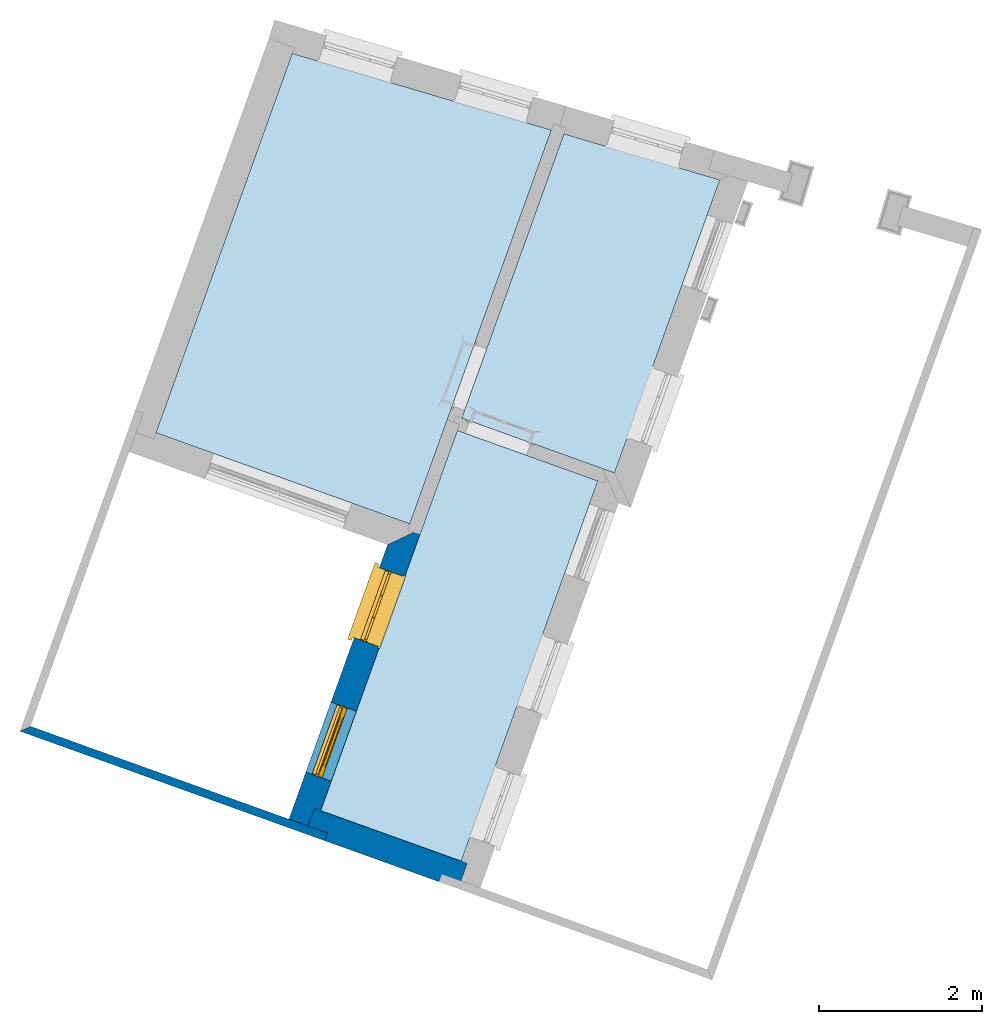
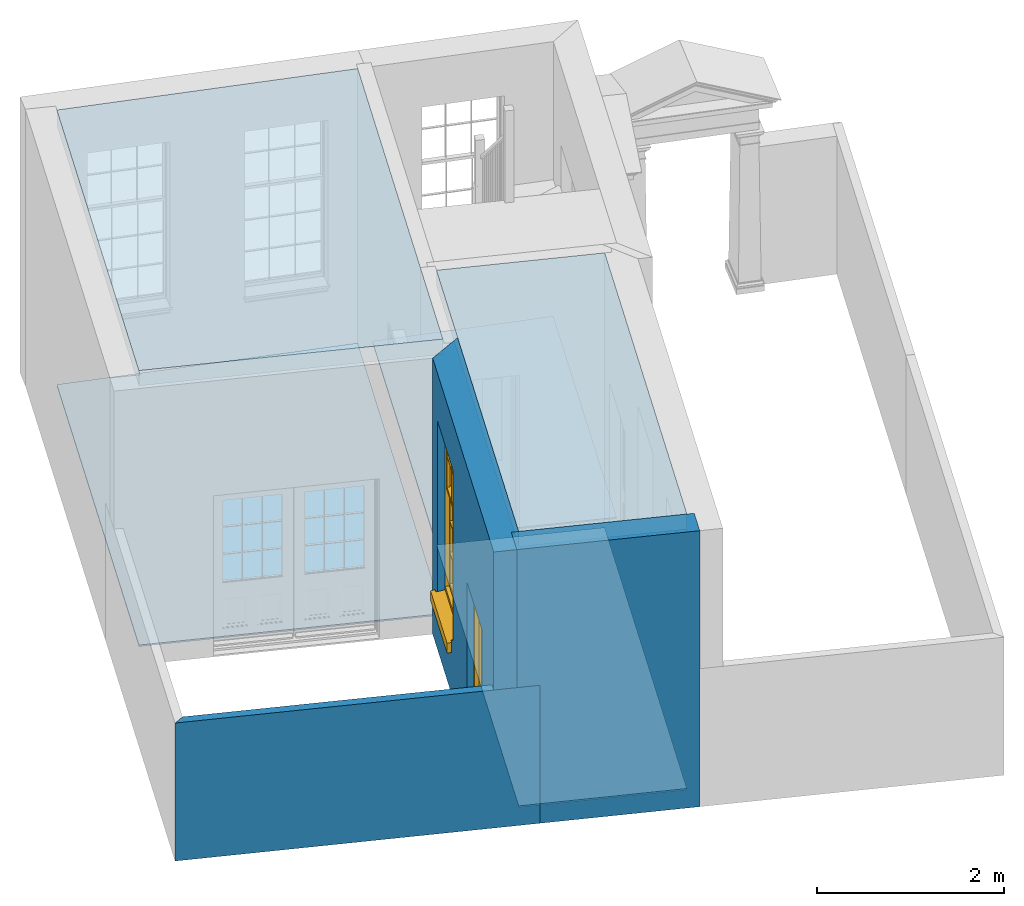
# One storey, part 1 of 7: 5 slabs, 3 walls, 1 door, 1 window, 2 openings.
"""IFC4 building model written with IfcOpenShell, lengths in metres."""

from ifc_helpers import new_model, si_unit, frame, origin, origin_with_axes, place, context, subcontext, project, spatial, polyline, outline, extrude, faceted_brep, source, transform, mapped, material, layer, layer_set, layer_usage, type_object, type_shapes, element, fill, save


model = new_model("IFC4")

# Units and contexts
model_context = context("Model", 3, world=origin_with_axes())
body_context = subcontext(model_context, "Body", "Model", "MODEL_VIEW")
ifc_project = project(units=[si_unit("PLANEANGLEUNIT", "RADIAN"), si_unit("MASSUNIT", "GRAM", prefix="KILO"), si_unit("FORCEUNIT", "NEWTON", prefix="KILO"), si_unit("LENGTHUNIT", "METRE"), si_unit("AREAUNIT", "SQUARE_METRE"), si_unit("VOLUMEUNIT", "CUBIC_METRE")], contexts=[model_context, model_context])

# Sites, building, storey
site_1_placement = place(None, origin_with_axes())
site_1 = spatial("IfcSite", under=ifc_project, at=site_1_placement, Name="Tamar")
site_2_placement = place(site_1_placement, origin_with_axes())
site_2 = spatial("IfcSite", under=site_1, at=site_2_placement, Name="Site plot-23", CompositionType="ELEMENT")
building_placement = place(None, origin_with_axes())
building = spatial("IfcBuilding", under=site_2, at=building_placement, Name="Building plot-23", CompositionType="ELEMENT")
storey_placement = place(None, frame((0.0, 0.0, 26.0), z_axis=(0.0, 0.0, 1.0), x_axis=(1.0, 0.0, 0.0)))
storey = spatial("IfcBuildingStorey", under=building, at=storey_placement, Name="plot-23 0", CompositionType="ELEMENT", Elevation=26.0)

# Slabs
slab_1_placement = place(storey_placement, frame((260.668706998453, 278.371056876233, 3.4)))
element("IfcSlab", 1, at=slab_1_placement, inside=storey, Name="My Slab", ObjectType="Slab", PredefinedType="FLOOR", context=body_context, shape_type="SweptSolid", body=[
    extrude(outline(polyline([(0.0, 0.0), (3.10608986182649, -1.11612193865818), (4.83756559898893, 3.70245481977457), (1.6674885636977, 4.64050489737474), (0.0, 0.0)])), origin_with_axes(), (0.0, 0.0, 1.0), 0.2),
])
slab_2_placement = place(storey_placement, frame((260.668706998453, 278.371056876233, 0.0)))
element("IfcSlab", 2, at=slab_2_placement, inside=storey, Name="My Slab", ObjectType="Slab", PredefinedType="FLOOR", context=body_context, shape_type="SweptSolid", body=[
    extrude(outline(polyline([(0.0, 0.0), (3.10608986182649, -1.11612193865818), (4.83756559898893, 3.70245481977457), (1.6674885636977, 4.64050489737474), (0.0, 0.0)])), origin_with_axes(), (0.0, 0.0, 1.0), 0.02),
])
slab_3_placement = place(storey_placement, frame((264.410114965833, 278.549838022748, 0.0)))
element("IfcSlab", 3, at=slab_3_placement, inside=storey, Name="My Slab", ObjectType="Slab", PredefinedType="FLOOR", context=body_context, shape_type="SweptSolid", body=[
    extrude(outline(polyline([(0.0, 0.0), (1.8689671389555, -0.671582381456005), (3.15730238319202, 2.91376515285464), (1.24983348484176, 3.47819981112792), (0.0, 0.0)])), origin_with_axes(), (0.0, 0.0, 1.0), 0.02),
])
slab_4_placement = place(storey_placement, frame((264.403707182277, 273.129802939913, 3.4)))
element("IfcSlab", 4, at=slab_4_placement, inside=storey, Name="My Slab", ObjectType="Slab", PredefinedType="FLOOR", context=body_context, shape_type="SweptSolid", body=[
    extrude(outline(polyline([(0.0, 0.0), (1.67150865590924, 4.65169253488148), (-0.047698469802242, 5.26946113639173), (-1.71920712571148, 0.617768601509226), (0.0, 0.0)])), origin_with_axes(), (0.0, 0.0, 1.0), 0.2),
])
slab_5_placement = place(storey_placement, frame((264.403707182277, 273.129802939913, 0.0)))
element("IfcSlab", 5, at=slab_5_placement, inside=storey, Name="My Slab", ObjectType="Slab", PredefinedType="FLOOR", context=body_context, shape_type="SweptSolid", body=[
    extrude(outline(polyline([(0.0, 0.0), (1.67150865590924, 4.65169253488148), (-0.047698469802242, 5.26946113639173), (-1.71920712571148, 0.617768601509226), (0.0, 0.0)])), origin_with_axes(), (0.0, 0.0, 1.0), 0.02),
])

# Wall, openings, window, door
ifc_material_1 = material(Name="Masonry")
ifc_layer_1 = layer(ifc_material_1, 0.33, ventilated=False)
ifc_layer_set_1 = layer_set([ifc_layer_1], Name="exterior_0.08_0.25")
ifc_layer_usage_1 = layer_usage(ifc_layer_set_1, "AXIS2", "POSITIVE", -0.25)
wall_type_1 = type_object("IfcWallType", Name="exterior_0.08_0.25", PredefinedType="SOLIDWALL", material=ifc_layer_set_1)
wall_1_placement = place(storey_placement, frame((263.823030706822, 277.152594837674, 0.0), z_axis=(0.0, 0.0, 1.0), x_axis=(-0.338164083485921, -0.941087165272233, 0.0)))
wall_1 = element("IfcWall", 6, at=wall_1_placement, inside=storey, type_object=wall_type_1, material=ifc_layer_usage_1, Name="exterior", context=body_context, shape_type="SweptSolid", body=[
    extrude(outline(polyline([(-0.0799999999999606, 0.0799999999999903), (0.249999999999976, -0.249999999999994), (3.91943389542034, -0.249999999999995), (3.91943389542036, 0.0799999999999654), (-0.0799999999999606, 0.0799999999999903)])), origin_with_axes(), (0.0, 0.0, 1.0), 3.6),
])
opening_1_placement = place(wall_1_placement, frame((0.550000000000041, 0.0, 0.75)))
opening_1 = element("IfcOpeningElement", 7, at=opening_1_placement, cuts=wall_1, Name="My Opening", ObjectType="Opening", context=body_context, shape_type="SweptSolid", body=[
    extrude(outline(polyline([(0.0, -0.269999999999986), (0.910000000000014, -0.270000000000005), (0.909999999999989, 1.09999999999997), (-2.46469511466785e-14, 1.09999999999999), (0.0, -0.269999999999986)])), origin_with_axes(), (0.0, 0.0, 1.0), 2.23),
])
opening_2_placement = place(wall_1_placement, frame((2.29707542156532, 0.0, 0.0199999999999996)))
opening_2 = element("IfcOpeningElement", 8, at=opening_2_placement, cuts=wall_1, Name="My Opening", ObjectType="Opening", context=body_context, shape_type="SweptSolid", body=[
    extrude(outline(polyline([(0.0, -0.269999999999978), (0.90999999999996, -0.270000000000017), (0.909999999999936, 1.09999999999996), (-2.44249065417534e-14, 1.1), (0.0, -0.269999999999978)])), origin_with_axes(), (0.0, 0.0, 1.0), 2.08),
])
window_type = type_object("IfcWindowType", Name="sash_big_taller", PartitioningType="DOUBLE_PANEL_HORIZONTAL", PredefinedType="NOTDEFINED")
shared_shape_1 = source(origin(), body_context, "Body", "Brep", [
    faceted_brep([(0.033125, 0.145, 1.385209), (0.01, 0.145, 1.385209), (0.033125, 0.145, 1.786042), (0.876875, 0.145, 1.385209), (0.876875, 0.145, 1.786042), (0.9, 0.145, 1.385209), (0.876875, 0.145, 1.796042), (0.876875, 0.145, 2.196875), (0.9, 0.145, 2.22), (0.033125, 0.145, 2.196875), (0.033125, 0.145, 1.796042), (0.01, 0.145, 2.22), (0.876875, 0.115, 1.786042), (0.876875, 0.115, 1.385209), (0.9, 0.115, 1.347084), (0.033125, 0.115, 2.196875), (0.01, 0.115, 2.22), (0.033125, 0.115, 1.796042), (0.01, 0.115, 1.347084), (0.033125, 0.115, 1.385209), (0.033125, 0.115, 1.786042), (0.876875, 0.115, 2.196875), (0.876875, 0.115, 1.796042), (0.9, 0.115, 2.22), (0.033125, 0.145, 1.347084), (0.01, 0.145, 1.347084), (0.033125, 0.145, 0.94625), (0.876875, 0.145, 1.347084), (0.876875, 0.145, 0.94625), (0.9, 0.145, 1.347084), (0.876875, 0.145, 0.52625), (0.876875, 0.145, 0.125417), (0.9, 0.145, 0.077167), (0.033125, 0.145, 0.125417), (0.033125, 0.145, 0.52625), (0.01, 0.145, 0.077167), (-0.0425, 0.0, 0.01), (-0.0425, -0.05, 0.001667), (0.0, 0.0, 0.01), (0.9525, 0.0, 0.01), (0.91, 0.0, 0.01), (0.9525, -0.05, 0.001667), (-0.02, 0.33, 0.077167), (0.0, 0.33, 0.077167), (-0.02, 0.36, 0.077167), (0.0, 0.19, 0.077167), (0.01, 0.19, 0.077167), (0.91, 0.19, 0.077167), (0.91, 0.33, 0.077167), (0.9, 0.19, 0.077167), (0.93, 0.33, 0.077167), (0.93, 0.36, 0.077167), (0.01, 0.175, 1.385209), (0.9, 0.175, 1.385209), (0.876875, 0.175, 0.125417), (0.876875, 0.175, 0.52625), (0.9, 0.175, 0.077167), (0.876875, 0.175, 0.94625), (0.876875, 0.175, 1.347084), (0.033125, 0.175, 0.125417), (0.01, 0.175, 0.077167), (0.033125, 0.175, 0.52625), (0.033125, 0.175, 1.347084), (0.033125, 0.175, 0.94625), (-0.02, 0.33, 0.052167), (-0.02, 0.36, 0.052167), (0.93, 0.36, 0.052167), (0.93, 0.33, 0.052167), (0.91, 0.33, 0.052167), (0.0, 0.33, 0.052167), (0.91, 0.1, 0.026667), (0.0, 0.1, 0.026667), (-0.0425, -0.05, -0.123333), (0.9525, -0.05, -0.123333), (-0.0425, 0.0, -0.123333), (0.9525, 0.0, -0.123333), (0.01, 0.19, 2.22), (0.9, 0.19, 2.22), (0.0, 0.19, 2.23), (0.91, 0.19, 2.23), (0.01, 0.1, 0.077167), (0.9, 0.1, 0.077167), (0.592292, 0.145, 0.125417), (0.592292, 0.175, 0.125417), (0.317708, 0.175, 0.125417), (0.317708, 0.145, 0.125417), (0.592292, 0.145, 0.53625), (0.317708, 0.145, 0.53625), (0.317708, 0.145, 0.52625), (0.592292, 0.145, 0.52625), (0.592292, 0.175, 0.53625), (0.317708, 0.175, 0.53625), (0.592292, 0.115, 1.796042), (0.592292, 0.145, 1.796042), (0.317708, 0.145, 1.796042), (0.317708, 0.115, 1.796042), (0.317708, 0.115, 1.786042), (0.592292, 0.115, 1.786042), (0.317708, 0.145, 1.786042), (0.592292, 0.145, 1.786042), (0.602292, 0.115, 1.786042), (0.592292, 0.115, 1.385209), (0.602292, 0.115, 1.385209), (0.602292, 0.145, 1.385209), (0.592292, 0.145, 1.385209), (0.602292, 0.145, 1.786042), (0.876875, 0.145, 0.53625), (0.876875, 0.175, 0.53625), (0.602292, 0.175, 0.53625), (0.602292, 0.145, 0.53625), (0.317708, 0.175, 0.52625), (0.307708, 0.175, 0.125417), (0.307708, 0.175, 0.52625), (0.602292, 0.175, 0.52625), (0.602292, 0.175, 0.125417), (0.592292, 0.175, 0.52625), (0.307708, 0.175, 0.53625), (0.033125, 0.175, 0.53625), (0.317708, 0.175, 1.347084), (0.317708, 0.175, 0.94625), (0.307708, 0.175, 0.94625), (0.307708, 0.175, 1.347084), (0.602292, 0.175, 1.347084), (0.602292, 0.175, 0.94625), (0.592292, 0.175, 0.94625), (0.592292, 0.175, 1.347084), (0.307708, 0.145, 0.52625), (0.307708, 0.145, 0.125417), (0.307708, 0.145, 0.53625), (0.033125, 0.145, 0.53625), (0.307708, 0.145, 1.347084), (0.307708, 0.145, 0.94625), (0.592292, 0.145, 1.347084), (0.592292, 0.145, 0.94625), (0.317708, 0.145, 0.94625), (0.317708, 0.145, 1.347084), (0.602292, 0.145, 0.94625), (0.602292, 0.145, 1.347084), (0.602292, 0.145, 0.52625), (0.602292, 0.145, 0.125417), (0.307708, 0.115, 1.796042), (0.307708, 0.115, 1.786042), (0.307708, 0.115, 1.385209), (0.317708, 0.115, 1.385209), (0.317708, 0.115, 2.196875), (0.307708, 0.115, 2.196875), (0.602292, 0.115, 2.196875), (0.592292, 0.115, 2.196875), (0.602292, 0.115, 1.796042), (0.602292, 0.145, 1.796042), (0.307708, 0.145, 1.796042), (0.307708, 0.145, 2.196875), (0.317708, 0.145, 2.196875), (0.592292, 0.145, 2.196875), (0.602292, 0.145, 2.196875), (0.307708, 0.145, 1.786042), (0.317708, 0.145, 1.385209), (0.307708, 0.145, 1.385209), (0.876875, 0.175, 0.93625), (0.033125, 0.175, 0.93625), (0.033125, 0.145, 0.93625), (0.876875, 0.145, 0.93625), (0.91, 0.1, 2.23), (0.9, 0.1, 2.22), (0.01, 0.1, 2.22), (0.0, 0.1, 2.23), (0.91, 0.0, 0.0), (0.0, 0.0, 0.0), (0.91, 0.33, 0.0), (0.0, 0.33, 0.0), (0.317708, 0.145, 0.93625), (0.592292, 0.145, 0.93625), (0.317708, 0.175, 0.93625), (0.307708, 0.175, 0.93625), (0.602292, 0.175, 0.93625), (0.592292, 0.175, 0.93625), (0.307708, 0.145, 0.93625), (0.602292, 0.145, 0.93625)], [[[0, 1, 2]], [[3, 4, 5]], [[6, 7, 8]], [[9, 10, 11]], [[12, 13, 14]], [[15, 16, 17]], [[18, 19, 20]], [[21, 22, 23]], [[24, 25, 26]], [[27, 28, 29]], [[30, 31, 32]], [[33, 34, 35]], [[14, 27, 29]], [[25, 24, 18]], [[36, 37, 38]], [[39, 40, 41]], [[42, 43, 44]], [[45, 46, 43]], [[47, 48, 49]], [[50, 51, 48]], [[1, 0, 52]], [[5, 53, 3]], [[54, 55, 56]], [[57, 58, 53]], [[59, 60, 61]], [[62, 63, 52]], [[48, 43, 46, 49]], [[51, 44, 43, 48]], [[64, 42, 44, 65]], [[65, 44, 51, 66]], [[66, 51, 50, 67]], [[65, 66, 68, 69]], [[60, 56, 49, 46]], [[70, 71, 38, 40]], [[37, 41, 40, 38]], [[37, 72, 73, 41]], [[74, 75, 73, 72]], [[8, 11, 76, 77]], [[76, 78, 79, 77]], [[32, 35, 80, 81]], [[81, 80, 71, 70]], [[82, 83, 84, 85]], [[86, 87, 88, 89]], [[86, 90, 91, 87]], [[92, 93, 94, 95]], [[92, 95, 96, 97]], [[96, 98, 99, 97]], [[100, 97, 101, 102]], [[103, 104, 99, 105]], [[97, 99, 104, 101]], [[102, 103, 105, 100]], [[106, 107, 108, 109]], [[110, 84, 111, 112]], [[113, 114, 83, 115]], [[116, 112, 61, 117]], [[90, 115, 110, 91]], [[118, 119, 120, 121]], [[122, 123, 124, 125]], [[113, 108, 107, 55]], [[126, 112, 111, 127]], [[34, 61, 112, 126]], [[89, 115, 83, 82]], [[88, 110, 115, 89]], [[85, 84, 110, 88]], [[128, 116, 117, 129]], [[130, 121, 120, 131]], [[132, 125, 124, 133]], [[134, 119, 118, 135]], [[136, 123, 122, 137]], [[138, 113, 55, 30]], [[139, 114, 113, 138]], [[138, 30, 106, 109]], [[88, 126, 127, 85]], [[138, 89, 82, 139]], [[137, 132, 133, 136]], [[128, 129, 34, 126]], [[135, 130, 131, 134]], [[140, 17, 20, 141]], [[96, 141, 142, 143]], [[144, 145, 140, 95]], [[146, 147, 92, 148]], [[100, 12, 22, 148]], [[149, 6, 4, 105]], [[94, 150, 151, 152]], [[149, 93, 153, 154]], [[99, 98, 94, 93]], [[155, 2, 10, 150]], [[156, 157, 155, 98]], [[141, 155, 157, 142]], [[20, 2, 155, 141]], [[143, 156, 98, 96]], [[140, 150, 10, 17]], [[145, 151, 150, 140]], [[147, 153, 93, 92]], [[95, 94, 152, 144]], [[22, 6, 149, 148]], [[148, 149, 154, 146]], [[100, 105, 4, 12]], [[109, 86, 89, 138]], [[108, 113, 115, 90]], [[91, 110, 112, 116]], [[87, 128, 126, 88]], [[97, 100, 148, 92]], [[141, 96, 95, 140]], [[98, 155, 150, 94]], [[105, 99, 93, 149]], [[143, 101, 104, 156]], [[135, 118, 125, 132]], [[144, 152, 153, 147]], [[127, 111, 59, 33]], [[15, 9, 151, 145]], [[146, 154, 7, 21]], [[31, 54, 114, 139]], [[36, 74, 72, 37]], [[39, 41, 73, 75]], [[18, 14, 101, 143]], [[23, 16, 144, 147]], [[83, 56, 60, 84]], [[52, 53, 125, 118]], [[53, 52, 156, 104]], [[11, 8, 153, 152]], [[14, 18, 135, 132]], [[2, 1, 11, 10]], [[8, 5, 4, 6]], [[57, 53, 56, 158]], [[60, 52, 63, 159]], [[26, 25, 35, 160]], [[32, 29, 28, 161]], [[14, 23, 22, 12]], [[18, 20, 17, 16]], [[19, 0, 2, 20]], [[17, 10, 9, 15]], [[12, 4, 3, 13]], [[21, 7, 6, 22]], [[27, 58, 57, 28]], [[30, 55, 54, 31]], [[33, 59, 61, 34]], [[26, 63, 62, 24]], [[5, 8, 77, 53]], [[76, 11, 1, 52]], [[46, 45, 78, 76]], [[49, 77, 79, 47]], [[70, 162, 163, 81]], [[71, 80, 164, 165]], [[19, 142, 157, 0]], [[102, 13, 3, 103]], [[121, 130, 24, 62]], [[29, 32, 81, 14]], [[80, 35, 25, 18]], [[60, 46, 76, 52]], [[77, 49, 56, 53]], [[23, 14, 81, 163]], [[16, 164, 80, 18]], [[35, 85, 127]], [[127, 33, 35]], [[139, 82, 32]], [[32, 31, 139]], [[32, 82, 85, 35]], [[102, 101, 14]], [[14, 13, 102]], [[18, 143, 142]], [[142, 19, 18]], [[146, 21, 23]], [[23, 147, 146]], [[16, 15, 145]], [[145, 144, 16]], [[11, 152, 151]], [[151, 9, 11]], [[154, 153, 8]], [[8, 7, 154]], [[23, 163, 164, 16]], [[162, 165, 164, 163]], [[52, 118, 121]], [[121, 62, 52]], [[125, 53, 122]], [[58, 122, 53]], [[27, 137, 122, 58]], [[56, 83, 114]], [[114, 54, 56]], [[111, 84, 60]], [[60, 59, 111]], [[137, 27, 14]], [[14, 132, 137]], [[130, 135, 18]], [[18, 24, 130]], [[157, 156, 52]], [[52, 0, 157]], [[103, 3, 53]], [[53, 104, 103]], [[79, 78, 165, 162]], [[78, 45, 71, 165]], [[162, 70, 47, 79]], [[166, 75, 74, 167]], [[68, 66, 67]], [[48, 68, 67, 50]], [[69, 64, 65]], [[42, 64, 69, 43]], [[69, 68, 168, 169]], [[70, 68, 48, 47]], [[166, 168, 68, 70]], [[43, 69, 71, 45]], [[69, 169, 167, 71]], [[168, 166, 167, 169]], [[38, 167, 74, 36]], [[71, 167, 38]], [[39, 75, 166, 40]], [[40, 166, 70]], [[133, 134, 170, 171]], [[133, 124, 119, 134]], [[28, 57, 123, 136]], [[172, 91, 116, 173]], [[174, 108, 90, 175]], [[120, 173, 159, 63]], [[124, 175, 172, 119]], [[174, 123, 57, 158]], [[176, 173, 116, 128]], [[160, 159, 173, 176]], [[171, 175, 90, 86]], [[170, 172, 175, 171]], [[87, 91, 172, 170]], [[131, 120, 63, 26]], [[177, 174, 158, 161]], [[109, 108, 174, 177]], [[177, 161, 28, 136]], [[170, 176, 128, 87]], [[177, 171, 86, 109]], [[131, 26, 160, 176]], [[136, 133, 171, 177]], [[123, 174, 175, 124]], [[119, 172, 173, 120]], [[134, 131, 176, 170]], [[129, 117, 159, 160]], [[161, 158, 107, 106]], [[35, 34, 129]], [[35, 129, 160]], [[32, 106, 30]], [[32, 161, 106]], [[56, 55, 107]], [[56, 107, 158]], [[60, 117, 61]], [[60, 159, 117]]]),
])
type_shapes(window_type, [shared_shape_1])
window_placement = place(storey_placement, frame((263.382946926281, 276.726301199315, 0.75), z_axis=(0.0, 0.0, 1.0), x_axis=(-0.30772931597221, -0.856389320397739, 0.0)))
window = element("IfcWindow", 9, at=window_placement, inside=storey, type_object=window_type, Name="bedroom outside window", OverallHeight=2.23, OverallWidth=0.91, context=body_context, shape_type="MappedRepresentation", body=[
    mapped(shared_shape_1, transform((0.0, 0.0, 0.0), scale=1.0)),
])
fill(opening_1, window)
door_type = type_object("IfcDoorType", Name="door_panelled", OperationType="SINGLE_SWING_LEFT", PredefinedType="NOTDEFINED")
shared_shape_2 = source(origin(), body_context, "Body", "Brep", [
    faceted_brep([(0.545, 0.195, 0.265), (0.745, 0.195, 0.265), (0.745, 0.2, 0.265), (0.545, 0.2, 0.265), (0.745, 0.2, 0.58), (0.545, 0.2, 0.58), (0.545, 0.195, 0.58), (0.515, 0.19, 0.235), (0.775, 0.19, 0.235), (0.745, 0.195, 0.58), (0.515, 0.19, 0.61), (0.515, 0.185, 0.235), (0.775, 0.185, 0.235), (0.775, 0.19, 0.61), (0.515, 0.185, 0.61), (0.785, 0.185, 0.225), (0.505, 0.185, 0.225), (0.775, 0.185, 0.61), (0.505, 0.185, 0.62), (0.785, 0.185, 0.62), (0.505, 0.18, 0.225), (0.785, 0.18, 0.225), (0.505, 0.18, 0.62), (0.785, 0.18, 0.62), (0.883, 0.18, 0.075), (0.898, 0.18, 0.075), (0.405, 0.18, 0.62), (0.405, 0.18, 0.225), (0.027, 0.18, 0.075), (0.785, 0.18, 0.82), (0.125, 0.18, 0.82), (0.405, 0.185, 0.62), (0.405, 0.185, 0.225), (0.898, 0.18, 2.068), (0.027, 0.17, 0.075), (0.883, 0.17, 0.075), (0.125, 0.18, 0.225), (0.012, 0.18, 0.075), (0.785, 0.19, 0.82), (0.125, 0.19, 0.82), (0.125, 0.18, 0.62), (0.125, 0.185, 0.62), (0.395, 0.185, 0.61), (0.395, 0.185, 0.235), (0.125, 0.185, 0.225), (0.785, 0.18, 1.895), (0.027, 0.14, 0.045), (0.883, 0.14, 0.045), (0.558333, 0.19, 0.83), (0.351667, 0.19, 0.83), (0.125, 0.18, 1.895), (0.125, 0.19, 1.895), (0.785, 0.19, 1.895), (0.012, 0.18, 2.068), (0.135, 0.185, 0.61), (0.395, 0.19, 0.61), (0.395, 0.19, 0.235), (0.135, 0.185, 0.235), (0.027, 0.14, 0.027), (0.883, 0.14, 0.027), (0.568333, 0.19, 0.83), (0.558333, 0.22, 0.83), (0.351667, 0.22, 0.83), (0.341667, 0.19, 0.83), (0.135, 0.19, 1.185), (0.135, 0.19, 1.53), (0.775, 0.19, 1.53), (0.775, 0.19, 1.185), (0.135, 0.19, 0.61), (0.365, 0.195, 0.58), (0.365, 0.195, 0.265), (0.135, 0.19, 0.235), (0.568333, 0.19, 1.175), (0.558333, 0.19, 1.175), (0.775, 0.19, 0.83), (0.558333, 0.22, 1.175), (0.785, 0.22, 0.82), (0.125, 0.22, 0.82), (0.351667, 0.22, 1.175), (0.351667, 0.19, 1.175), (0.341667, 0.19, 1.175), (0.135, 0.19, 0.83), (0.135, 0.19, 1.175), (0.135, 0.22, 1.185), (0.135, 0.22, 1.53), (0.135, 0.19, 1.54), (0.351667, 0.19, 1.885), (0.558333, 0.19, 1.885), (0.775, 0.22, 1.53), (0.775, 0.22, 1.185), (0.775, 0.19, 1.175), (0.775, 0.19, 1.54), (0.165, 0.195, 0.58), (0.365, 0.2, 0.58), (0.365, 0.2, 0.265), (0.165, 0.195, 0.265), (0.568333, 0.22, 0.83), (0.568333, 0.22, 1.175), (0.568333, 0.19, 1.185), (0.558333, 0.19, 1.185), (0.775, 0.22, 0.83), (0.785, 0.23, 0.82), (0.125, 0.23, 0.82), (0.341667, 0.22, 0.83), (0.341667, 0.22, 1.175), (0.351667, 0.19, 1.185), (0.341667, 0.19, 1.185), (0.135, 0.22, 0.83), (0.341667, 0.22, 1.185), (0.125, 0.22, 1.895), (0.341667, 0.22, 1.53), (0.341667, 0.19, 1.53), (0.135, 0.19, 1.885), (0.341667, 0.19, 1.54), (0.341667, 0.19, 1.885), (0.558333, 0.22, 1.885), (0.351667, 0.22, 1.885), (0.568333, 0.19, 1.885), (0.785, 0.22, 1.895), (0.568333, 0.22, 1.185), (0.568333, 0.19, 1.53), (0.568333, 0.22, 1.53), (0.568333, 0.19, 1.54), (0.775, 0.19, 1.885), (0.165, 0.2, 0.58), (0.165, 0.2, 0.265), (0.775, 0.22, 1.175), (0.558333, 0.19, 1.53), (0.351667, 0.22, 1.185), (0.558333, 0.22, 1.185), (0.505, 0.23, 0.62), (0.405, 0.23, 0.62), (0.125, 0.23, 1.895), (0.785, 0.23, 1.895), (0.351667, 0.19, 1.53), (0.135, 0.22, 1.175), (0.135, 0.22, 1.54), (0.341667, 0.22, 1.54), (0.135, 0.22, 1.885), (0.351667, 0.19, 1.54), (0.558333, 0.22, 1.54), (0.558333, 0.19, 1.54), (0.351667, 0.22, 1.54), (0.775, 0.22, 1.54), (0.568333, 0.22, 1.54), (0.775, 0.22, 1.885), (0.558333, 0.22, 1.53), (0.405, 0.23, 0.225), (0.505, 0.23, 0.225), (0.125, 0.23, 0.62), (0.785, 0.23, 0.62), (0.012, 0.23, 2.068), (0.898, 0.23, 2.068), (0.351667, 0.22, 1.53), (0.341667, 0.22, 1.885), (0.568333, 0.22, 1.885), (0.405, 0.225, 0.225), (0.405, 0.225, 0.62), (0.505, 0.225, 0.62), (0.505, 0.225, 0.225), (0.898, 0.23, 0.027), (0.012, 0.23, 0.027), (0.125, 0.225, 0.62), (0.785, 0.225, 0.62), (0.395, 0.225, 0.235), (0.395, 0.225, 0.61), (0.125, 0.23, 0.225), (0.125, 0.225, 0.225), (0.515, 0.225, 0.61), (0.515, 0.225, 0.235), (0.785, 0.23, 0.225), (0.785, 0.225, 0.225), (0.135, 0.225, 0.61), (0.775, 0.225, 0.61), (0.135, 0.225, 0.235), (0.395, 0.22, 0.235), (0.395, 0.22, 0.61), (0.515, 0.22, 0.61), (0.515, 0.22, 0.235), (0.775, 0.225, 0.235), (0.135, 0.22, 0.61), (0.775, 0.22, 0.61), (0.135, 0.22, 0.235), (0.365, 0.215, 0.265), (0.365, 0.215, 0.58), (0.545, 0.215, 0.58), (0.545, 0.215, 0.265), (0.775, 0.22, 0.235), (0.165, 0.215, 0.58), (0.745, 0.215, 0.58), (0.165, 0.215, 0.265), (0.365, 0.21, 0.58), (0.365, 0.21, 0.265), (0.545, 0.21, 0.58), (0.545, 0.21, 0.265), (0.745, 0.215, 0.265), (0.165, 0.21, 0.58), (0.745, 0.21, 0.58), (0.165, 0.21, 0.265), (0.745, 0.21, 0.265), (0.885, 0.178, 0.025), (0.025, 0.178, 0.025), (0.025, 0.15, 0.025), (0.885, 0.15, 0.025), (0.9, 0.23, 0.025), (0.01, 0.23, 0.025), (0.9, 0.178, 0.025), (0.91, 0.23, 0.0), (0.0, 0.23, 0.0), (0.01, 0.178, 0.025), (0.9, 0.178, 2.07), (0.9, 0.23, 2.07), (0.885, 0.178, 2.055), (0.91, 0.23, 2.08), (0.01, 0.23, 2.07), (0.0, 0.23, 2.08), (0.01, 0.178, 2.07), (0.025, 0.178, 2.055), (0.0, 0.1, 2.08), (0.91, 0.1, 2.08), (0.01, 0.1, 2.07), (0.9, 0.1, 2.07), (0.01, 0.15, 2.07), (0.9, 0.15, 2.07), (0.0, 0.1, 0.0), (0.91, 0.1, 0.0), (0.01, 0.1, 0.025), (0.9, 0.1, 0.025), (0.01, 0.15, 0.025), (0.025, 0.15, 2.055), (0.9, 0.15, 0.025), (0.885, 0.15, 2.055), (0.898, 0.18, 0.027), (0.012, 0.18, 0.027), (0.883, 0.18, 0.027), (0.027, 0.18, 0.027)], [[[0, 1, 2, 3]], [[2, 4, 5, 3]], [[0, 3, 5, 6]], [[1, 0, 7, 8]], [[9, 4, 2, 1]], [[9, 6, 5, 4]], [[0, 6, 10, 7]], [[8, 7, 11, 12]], [[8, 13, 9, 1]], [[13, 10, 6, 9]], [[7, 10, 14, 11]], [[15, 12, 11, 16]], [[12, 17, 13, 8]], [[17, 14, 10, 13]], [[18, 16, 11, 14]], [[15, 19, 17, 12]], [[15, 16, 20, 21]], [[14, 17, 19, 18]], [[16, 18, 22, 20]], [[21, 23, 19, 15]], [[24, 25, 21, 20]], [[23, 22, 18, 19]], [[20, 22, 26, 27]], [[23, 21, 25]], [[28, 24, 20, 27]], [[22, 23, 29]], [[29, 30, 26, 22]], [[27, 26, 31, 32]], [[23, 25, 33, 29]], [[34, 35, 24, 28]], [[28, 27, 36, 37]], [[38, 39, 30, 29]], [[26, 30, 40]], [[26, 40, 41, 31]], [[42, 43, 32, 31]], [[32, 44, 36, 27]], [[33, 45, 29]], [[46, 47, 35, 34]], [[36, 40, 37]], [[39, 38, 48, 49]], [[50, 30, 39, 51]], [[29, 45, 52, 38]], [[53, 37, 40, 30]], [[44, 41, 40, 36]], [[31, 41, 54, 42]], [[43, 42, 55, 56]], [[57, 44, 32, 43]], [[50, 45, 33, 53]], [[47, 46, 58, 59]], [[60, 48, 38]], [[49, 48, 61, 62]], [[49, 63, 39]], [[50, 53, 30]], [[51, 39, 64, 65]], [[45, 50, 51, 52]], [[66, 67, 38, 52]], [[57, 54, 41, 44]], [[42, 54, 68, 55]], [[56, 55, 69, 70]], [[56, 71, 57, 43]], [[60, 72, 73, 48]], [[60, 38, 74]], [[48, 73, 75, 61]], [[76, 77, 62, 61]], [[62, 78, 79, 49]], [[49, 79, 80, 63]], [[63, 81, 39]], [[82, 64, 39]], [[65, 64, 83, 84]], [[85, 51, 65]], [[52, 51, 86, 87]], [[88, 89, 67, 66]], [[90, 38, 67]], [[91, 66, 52]], [[71, 68, 54, 57]], [[55, 68, 92, 69]], [[69, 93, 94, 70]], [[70, 95, 71, 56]], [[96, 97, 72, 60]], [[73, 72, 98, 99]], [[74, 38, 90]], [[100, 96, 60, 74]], [[75, 73, 79, 78]], [[61, 75, 97, 96]], [[101, 102, 77, 76]], [[77, 103, 62]], [[96, 76, 61]], [[103, 104, 78, 62]], [[80, 79, 105, 106]], [[63, 80, 104, 103]], [[81, 63, 103, 107]], [[81, 82, 39]], [[106, 64, 82, 80]], [[106, 108, 83, 64]], [[84, 83, 77, 109]], [[110, 111, 65, 84]], [[112, 51, 85]], [[113, 85, 65, 111]], [[114, 86, 51]], [[115, 87, 86, 116]], [[117, 52, 87]], [[118, 76, 89, 88]], [[119, 98, 67, 89]], [[120, 121, 88, 66]], [[67, 98, 72, 90]], [[91, 122, 120, 66]], [[91, 52, 123]], [[95, 92, 68, 71]], [[69, 92, 124, 93]], [[94, 93, 124, 125]], [[94, 125, 95, 70]], [[72, 97, 126, 90]], [[127, 99, 98, 120]], [[99, 105, 79, 73]], [[74, 90, 126, 100]], [[96, 100, 76]], [[128, 129, 75, 78]], [[97, 75, 129, 119]], [[130, 131, 102, 101]], [[109, 77, 102, 132]], [[133, 101, 76, 118]], [[77, 107, 103]], [[78, 104, 108, 128]], [[111, 106, 105, 134]], [[104, 80, 82, 135]], [[107, 135, 82, 81]], [[110, 108, 106, 111]], [[104, 135, 83, 108]], [[83, 135, 77]], [[136, 84, 109]], [[110, 84, 136, 137]], [[114, 51, 112]], [[85, 136, 138, 112]], [[113, 137, 136, 85]], [[111, 134, 139, 113]], [[86, 114, 113, 139]], [[140, 141, 87, 115]], [[139, 142, 116, 86]], [[109, 118, 115, 116]], [[117, 123, 52]], [[117, 87, 141, 122]], [[126, 89, 76]], [[143, 118, 88]], [[120, 98, 119, 121]], [[119, 89, 126, 97]], [[144, 143, 88, 121]], [[144, 122, 91, 143]], [[127, 120, 122, 141]], [[143, 91, 123, 145]], [[124, 92, 95, 125]], [[146, 129, 99, 127]], [[99, 129, 128, 105]], [[100, 126, 76]], [[121, 119, 129, 146]], [[147, 131, 130, 148]], [[131, 149, 102]], [[130, 101, 150]], [[102, 151, 132]], [[118, 109, 132, 133]], [[101, 133, 152]], [[107, 77, 135]], [[153, 128, 108, 110]], [[134, 105, 128, 153]], [[109, 138, 136]], [[153, 110, 137, 142]], [[154, 114, 112, 138]], [[137, 113, 114, 154]], [[141, 139, 134, 127]], [[141, 140, 142, 139]], [[144, 140, 115, 155]], [[142, 137, 154, 116]], [[155, 115, 118]], [[116, 154, 109]], [[117, 155, 145, 123]], [[122, 144, 155, 117]], [[143, 145, 118]], [[121, 146, 140, 144]], [[146, 127, 134, 153]], [[156, 157, 131, 147]], [[148, 130, 158, 159]], [[148, 160, 161, 147]], [[157, 162, 149, 131]], [[161, 151, 102, 149]], [[101, 152, 160, 150]], [[163, 158, 130, 150]], [[151, 152, 133, 132]], [[154, 138, 109]], [[142, 140, 146, 153]], [[145, 155, 118]], [[157, 156, 164, 165]], [[147, 166, 167, 156]], [[168, 169, 159, 158]], [[170, 148, 159, 171]], [[148, 170, 160]], [[166, 147, 161]], [[172, 162, 157, 165]], [[166, 149, 162, 167]], [[166, 161, 149]], [[150, 160, 170]], [[163, 173, 168, 158]], [[171, 163, 150, 170]], [[174, 164, 156, 167]], [[175, 176, 165, 164]], [[169, 168, 177, 178]], [[171, 159, 169, 179]], [[167, 162, 172, 174]], [[176, 180, 172, 165]], [[179, 173, 163, 171]], [[181, 177, 168, 173]], [[164, 174, 182, 175]], [[183, 184, 176, 175]], [[178, 177, 185, 186]], [[179, 169, 178, 187]], [[174, 172, 180, 182]], [[184, 188, 180, 176]], [[187, 181, 173, 179]], [[189, 185, 177, 181]], [[175, 182, 190, 183]], [[191, 184, 183, 192]], [[185, 193, 194, 186]], [[187, 178, 186, 195]], [[182, 180, 188, 190]], [[191, 196, 188, 184]], [[195, 189, 181, 187]], [[197, 193, 185, 189]], [[183, 190, 198, 192]], [[198, 196, 191, 192]], [[194, 193, 197, 199]], [[195, 186, 194, 199]], [[188, 196, 198, 190]], [[197, 189, 195, 199]], [[200, 201, 202, 203]], [[201, 200, 204, 205]], [[206, 204, 200]], [[204, 207, 208, 205]], [[209, 201, 205]], [[210, 211, 204, 206]], [[206, 200, 212, 210]], [[211, 213, 207, 204]], [[214, 205, 208, 215]], [[216, 217, 201, 209]], [[205, 214, 216, 209]], [[216, 214, 211, 210]], [[210, 212, 217, 216]], [[214, 215, 213, 211]], [[218, 219, 213, 215]], [[219, 218, 220, 221]], [[221, 220, 222, 223]], [[215, 208, 224, 218]], [[225, 224, 208, 207]], [[224, 226, 220, 218]], [[224, 225, 227, 226]], [[219, 225, 207, 213]], [[228, 222, 220, 226]], [[219, 221, 227, 225]], [[226, 227, 203, 202]], [[202, 229, 222, 228]], [[228, 226, 202]], [[227, 221, 223, 230]], [[230, 203, 227]], [[217, 229, 202, 201]], [[231, 223, 222, 229]], [[230, 223, 231, 203]], [[231, 229, 217, 212]], [[212, 200, 203, 231]], [[33, 152, 151, 53]], [[25, 160, 152, 33]], [[161, 37, 53, 151]], [[232, 160, 25]], [[161, 233, 37]], [[160, 232, 234]], [[24, 234, 232, 25]], [[233, 161, 235]], [[37, 233, 235, 28]], [[161, 160, 234, 235]], [[35, 47, 234, 24]], [[28, 235, 46, 34]], [[58, 235, 234, 59]], [[59, 234, 47]], [[58, 46, 235]]]),
])
type_shapes(door_type, [shared_shape_2])
door_placement = place(storey_placement, frame((262.792148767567, 275.082150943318, 0.0199999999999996), z_axis=(0.0, 0.0, 1.0), x_axis=(-0.30772931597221, -0.856389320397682, 0.0)))
door = element("IfcDoor", 10, at=door_placement, inside=storey, type_object=door_type, Name="bedroom outside door", OverallHeight=2.08, OverallWidth=0.91, context=body_context, shape_type="MappedRepresentation", body=[
    mapped(shared_shape_2, transform((0.0, 0.0, 0.0), scale=1.0)),
])
fill(opening_2, door)

# Walls
ifc_material_2 = material(Name="Masonry")
ifc_layer_2 = layer(ifc_material_2, 0.33, ventilated=False)
ifc_layer_set_2 = layer_set([ifc_layer_2], Name="party_0.08_0.25")
ifc_layer_usage_2 = layer_usage(ifc_layer_set_2, "AXIS2", "POSITIVE", -0.25)
wall_type_2 = type_object("IfcWallType", Name="party_0.08_0.25", PredefinedType="SOLIDWALL", material=ifc_layer_set_2)
wall_2_placement = place(storey_placement, frame((262.582159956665, 273.699337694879, 0.0), z_axis=(0.0, 0.0, 1.0), x_axis=(0.941087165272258, -0.338164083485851, 0.0)))
element("IfcWall", 11, at=wall_2_placement, inside=storey, type_object=wall_type_2, material=ifc_layer_usage_2, Name="party", context=body_context, shape_type="SweptSolid", body=[
    extrude(outline(polyline([(1.60361974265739e-15, 0.0800000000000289), (-2.75794552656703e-14, -0.249999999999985), (1.98683091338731, -0.249999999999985), (1.98683091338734, 0.0800000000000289), (1.60361974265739e-15, 0.0800000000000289)])), origin_with_axes(), (0.0, 0.0, 1.0), 3.6),
])
ifc_material_3 = material(Name="Masonry")
ifc_layer_3 = layer(ifc_material_3, 0.1, ventilated=False)
ifc_layer_set_3 = layer_set([ifc_layer_3], Name="fence_-0.15_0.25")
ifc_layer_usage_3 = layer_usage(ifc_layer_set_3, "AXIS2", "POSITIVE", -0.25)
wall_type_3 = type_object("IfcWallType", Name="fence_-0.15_0.25", PredefinedType="SOLIDWALL", material=ifc_layer_set_3)
wall_3_placement = place(storey_placement, frame((259.325496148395, 274.869565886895, 0.0), z_axis=(0.0, 0.0, 1.0), x_axis=(0.941087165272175, -0.338164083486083, 0.0)))
element("IfcWall", 12, at=wall_3_placement, inside=storey, type_object=wall_type_3, material=ifc_layer_usage_3, Name="fence", context=body_context, shape_type="SweptSolid", body=[
    extrude(outline(polyline([(-0.149999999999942, -0.150000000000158), (-0.249999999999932, -0.250000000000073), (3.71053365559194, -0.250000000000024), (3.71053365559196, -0.150000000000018), (-0.149999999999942, -0.150000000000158)])), origin_with_axes(), (0.0, 0.0, 1.0), 1.8),
])

save(model, "model.ifc")
